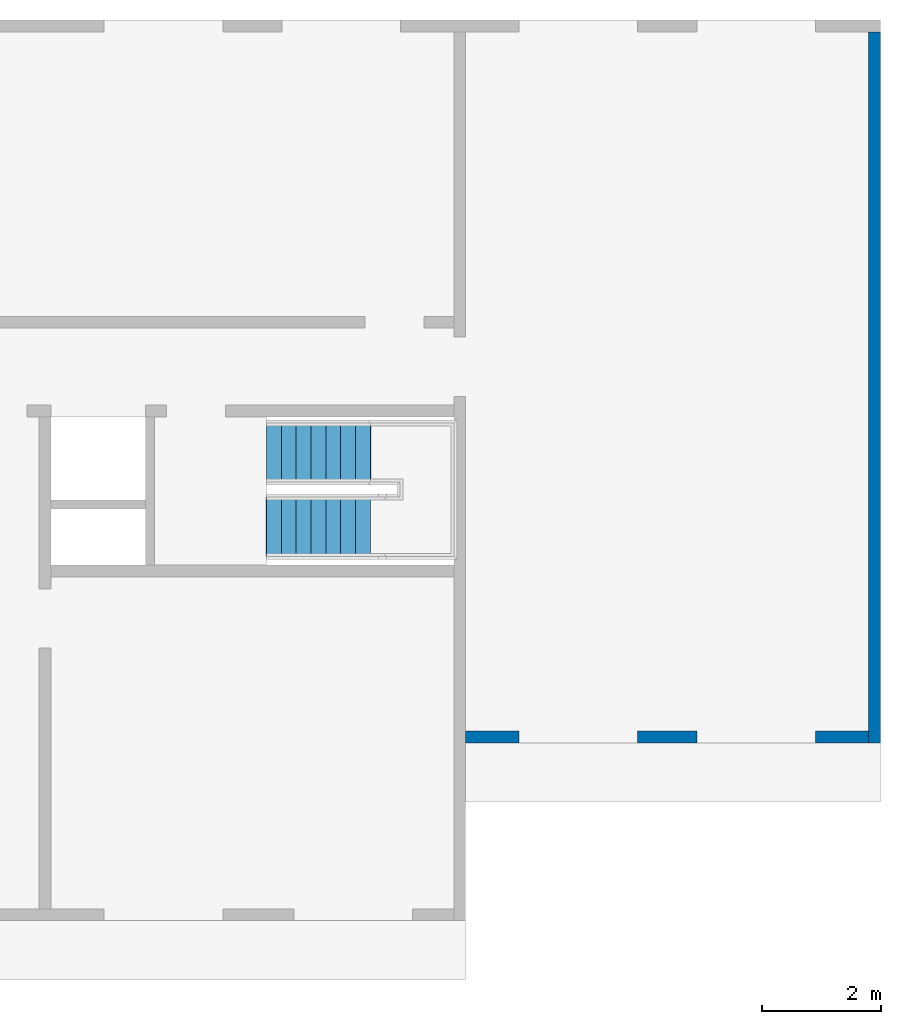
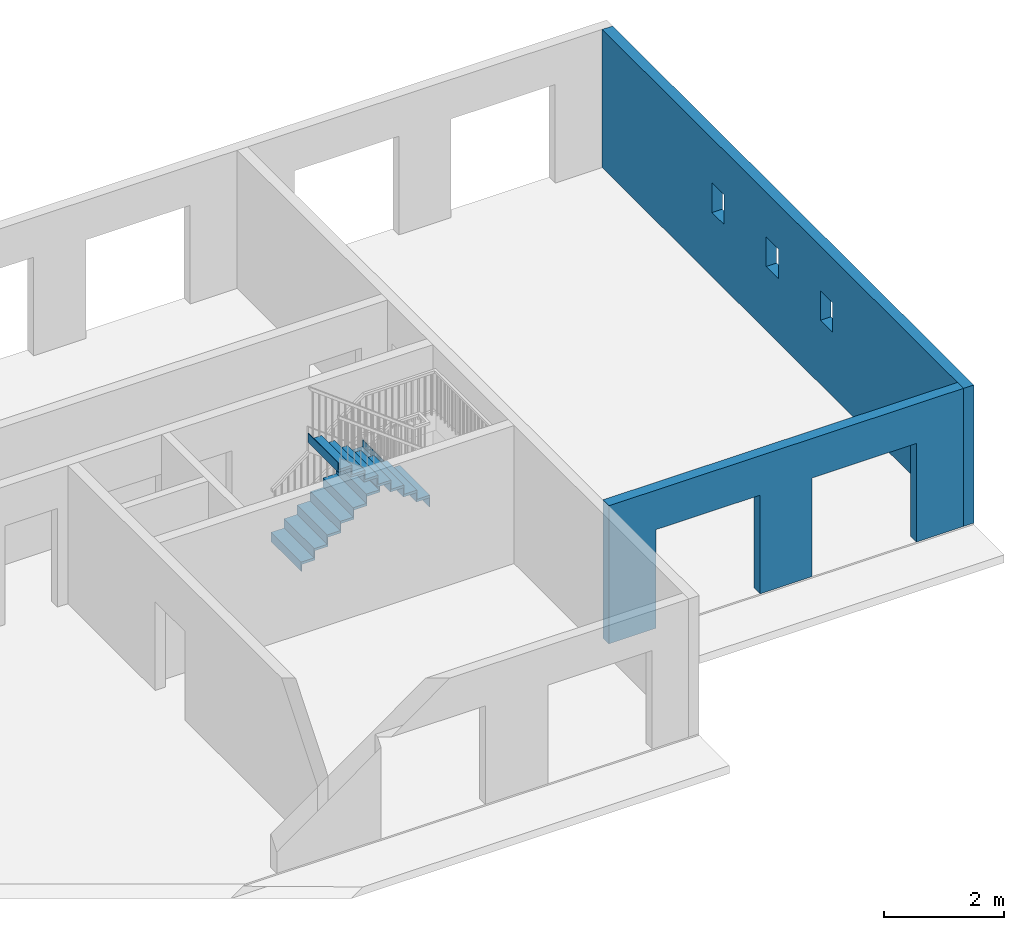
# One storey, part 2 of 3: 2 stair flights, 2 walls, 5 openings, 1 element without a shape of its own.
"""IFC2X3 building model written with IfcOpenShell, lengths in metres."""

from ifc_helpers import new_model, entity, si_unit, converted_unit, derived_unit, direction, frame, frame_2d, origin, origin_2d_with_axis, place, context, subcontext, project, spatial, rectangle, extrude, material, layer, layer_set, layer_usage, type_object, element, aggregate, save


model = new_model("IFC2X3")

# Units and contexts
model_context = context("Model", 3, precision=1e-05, world=origin(), true_north=direction((6.12303176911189e-17, 1.0)))
context_of_model = context(None, 3, precision=1e-05, world=origin(), true_north=direction((6.12303176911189e-17, 1.0)))
body_context = subcontext(model_context, "Body", "Model", "MODEL_VIEW")
ifc_project = project(units=[si_unit("LENGTHUNIT", "METRE"), si_unit("AREAUNIT", "SQUARE_METRE"), si_unit("VOLUMEUNIT", "CUBIC_METRE"), converted_unit("PLANEANGLEUNIT", "DEGREE", entity("IfcRatioMeasure", 0.0174532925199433), si_unit("PLANEANGLEUNIT", "RADIAN"), dimensions=[0, 0, 0, 0, 0, 0, 0]), si_unit("MASSUNIT", "GRAM", prefix="KILO"), derived_unit("MASSDENSITYUNIT", [(si_unit("MASSUNIT", "GRAM", prefix="KILO"), 1), (si_unit("LENGTHUNIT", "METRE"), -3)]), si_unit("TIMEUNIT", "SECOND"), si_unit("FREQUENCYUNIT", "HERTZ"), si_unit("THERMODYNAMICTEMPERATUREUNIT", "DEGREE_CELSIUS"), derived_unit("THERMALTRANSMITTANCEUNIT", [(si_unit("MASSUNIT", "GRAM", prefix="KILO"), 1), (si_unit("THERMODYNAMICTEMPERATUREUNIT", "KELVIN"), -1), (si_unit("TIMEUNIT", "SECOND"), -3)]), derived_unit("VOLUMETRICFLOWRATEUNIT", [(si_unit("LENGTHUNIT", "METRE"), 3), (si_unit("TIMEUNIT", "SECOND"), -1)]), si_unit("ELECTRICCURRENTUNIT", "AMPERE"), si_unit("ELECTRICVOLTAGEUNIT", "VOLT"), si_unit("POWERUNIT", "WATT"), si_unit("FORCEUNIT", "NEWTON"), si_unit("ILLUMINANCEUNIT", "LUX"), si_unit("LUMINOUSFLUXUNIT", "LUMEN"), si_unit("LUMINOUSINTENSITYUNIT", "CANDELA"), derived_unit("USERDEFINED", [(si_unit("MASSUNIT", "GRAM", prefix="KILO"), -1), (si_unit("LENGTHUNIT", "METRE"), -2), (si_unit("TIMEUNIT", "SECOND"), 3), (si_unit("LUMINOUSFLUXUNIT", "LUMEN"), 1)]), derived_unit("LINEARVELOCITYUNIT", [(si_unit("LENGTHUNIT", "METRE"), 1), (si_unit("TIMEUNIT", "SECOND"), -1)]), si_unit("PRESSUREUNIT", "PASCAL"), derived_unit("USERDEFINED", [(si_unit("LENGTHUNIT", "METRE"), -2), (si_unit("MASSUNIT", "GRAM", prefix="KILO"), 1), (si_unit("TIMEUNIT", "SECOND"), -2)])], contexts=[model_context, context_of_model])

# Site, building, storey
site_placement = place(None, origin())
site = spatial("IfcSite", under=ifc_project, at=site_placement, Name="Default", CompositionType="ELEMENT")
building_placement = place(site_placement, origin())
building = spatial("IfcBuilding", under=site, at=building_placement, CompositionType="ELEMENT")
storey_placement = place(building_placement, frame((0.0, 0.0, 6.0)))
storey = spatial("IfcBuildingStorey", under=building, at=storey_placement, Name="R+2", CompositionType="ELEMENT", Elevation=5.99999999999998)

# Wall, openings
ifc_material = material(Name="Béton - Coulé sur place - Béton20")
ifc_layer = layer(ifc_material, 0.2)
ifc_layer_set = layer_set([ifc_layer], Name="Mur de base:Générique - 200 mm")
ifc_layer_usage_1 = layer_usage(ifc_layer_set, "AXIS2", "NEGATIVE", 0.1)
wall_type = type_object("IfcWallType", Name="Mur de base:Générique - 200 mm", PredefinedType="STANDARD", material=ifc_layer_set)
wall_1_placement = place(storey_placement, frame((15.7926639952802, 8.86181014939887, 0.200000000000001), z_axis=(0.0, 0.0, 1.0), x_axis=(0.0, -1.0, 0.0)))
wall_1 = element("IfcWallStandardCase", 1, at=wall_1_placement, inside=storey, type_object=wall_type, material=ifc_layer_usage_1, Name="Mur de base:Générique - 200 mm", ObjectType="Mur de base:Générique - 200 mm:1044", context=body_context, shape_type="SweptSolid", body=[
    extrude(rectangle(XDim=12.0, YDim=0.200000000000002, at=frame_2d((6.0, 0.0), x_axis=(-1.0, 0.0))), origin(), (0.0, 0.0, 1.0), 2.80000000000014),
])
opening_1_placement = place(wall_1_placement, frame((5.45, -0.10000000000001, 1.29999999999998)))
element("IfcOpeningElement", 2, at=opening_1_placement, cuts=wall_1, Name="M_Fenêtre-Ouverture carrée:0400 x 600mm:1", ObjectType="Opening", context=body_context, shape_type="SweptSolid", body=[
    extrude(rectangle(XDim=0.6, YDim=0.4, at=frame_2d((0.3, 0.2), x_axis=(-1.0, 0.0))), frame((0.0, 0.0, 0.0), z_axis=(0.0, 1.0, 0.0), x_axis=(0.0, 0.0, 1.0)), (0.0, 0.0, 1.0), 0.2),
])
opening_2_placement = place(wall_1_placement, frame((3.65, -0.100000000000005, 1.29999999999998)))
element("IfcOpeningElement", 3, at=opening_2_placement, cuts=wall_1, Name="M_Fenêtre-Ouverture carrée:0400 x 600mm:1", ObjectType="Opening", context=body_context, shape_type="SweptSolid", body=[
    extrude(rectangle(XDim=0.6, YDim=0.4, at=frame_2d((0.3, 0.2), x_axis=(-1.0, 0.0))), frame((0.0, 0.0, 0.0), z_axis=(0.0, 1.0, 0.0), x_axis=(0.0, 0.0, 1.0)), (0.0, 0.0, 1.0), 0.2),
])
opening_3_placement = place(wall_1_placement, frame((7.25, -0.100000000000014, 1.29999999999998)))
element("IfcOpeningElement", 4, at=opening_3_placement, cuts=wall_1, Name="M_Fenêtre-Ouverture carrée:0400 x 600mm:1", ObjectType="Opening", context=body_context, shape_type="SweptSolid", body=[
    extrude(rectangle(XDim=0.6, YDim=0.4, at=frame_2d((0.3, 0.2), x_axis=(-1.0, 0.0))), frame((0.0, 0.0, 0.0), z_axis=(0.0, 1.0, 0.0), x_axis=(0.0, 0.0, 1.0)), (0.0, 0.0, 1.0), 0.2),
])

ifc_layer_usage_2 = layer_usage(ifc_layer_set, "AXIS2", "NEGATIVE", 0.1)
wall_2_placement = place(storey_placement, frame((15.6926639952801, -3.03818985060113, 0.200000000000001), z_axis=(0.0, 0.0, 1.0), x_axis=(-1.0, 0.0, 0.0)))
wall_2 = element("IfcWallStandardCase", 5, at=wall_2_placement, inside=storey, type_object=wall_type, material=ifc_layer_usage_2, Name="Mur de base:Générique - 200 mm", ObjectType="Mur de base:Générique - 200 mm:1044", context=body_context, shape_type="SweptSolid", body=[
    extrude(rectangle(XDim=6.8, YDim=0.2, at=frame_2d((3.4, 2.22044604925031e-16), x_axis=(-1.0, 0.0))), origin(), (0.0, 0.0, 1.0), 2.80000000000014),
])
opening_4_placement = place(wall_2_placement, frame((3.9, -0.100000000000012, 0.0)))
element("IfcOpeningElement", 6, at=opening_4_placement, cuts=wall_2, Name="M_Porte-Ouverture:2000 x 2000 mm:1", ObjectType="Opening", context=body_context, shape_type="SweptSolid", body=[
    extrude(rectangle(XDim=2.0, YDim=2.0, at=frame_2d((1.0, 1.0), x_axis=(-1.0, 0.0))), frame((0.0, 0.0, 0.0), z_axis=(0.0, 1.0, 0.0), x_axis=(0.0, 0.0, 1.0)), (0.0, 0.0, 1.0), 0.2),
])
opening_5_placement = place(wall_2_placement, frame((0.899999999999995, -0.100000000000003, 0.0)))
element("IfcOpeningElement", 7, at=opening_5_placement, cuts=wall_2, Name="M_Porte-Ouverture:2000 x 2000 mm:1", ObjectType="Opening", context=body_context, shape_type="SweptSolid", body=[
    extrude(rectangle(XDim=2.0, YDim=2.0, at=frame_2d((1.0, 1.0), x_axis=(-1.0, 0.0))), frame((0.0, 0.0, 0.0), z_axis=(0.0, 1.0, 0.0), x_axis=(0.0, 0.0, 1.0)), (0.0, 0.0, 1.0), 0.2),
])

# Stair, stair flights
stair_placement = place(storey_placement, origin())
stair = element("IfcStair", 8, at=stair_placement, inside=storey, Name="Escalier assemblé:Escalier", ObjectType="Escalier assemblé:Contremarche 190 mm max marche 250\xa0mm", ShapeType="NOTDEFINED")
stair_flight_1_placement = place(stair_placement, origin())
stair_flight_1 = element("IfcStairFlight", 9, at=stair_flight_1_placement, Name="Escalier assemblé:Escalier:468124 Run 1", ObjectType="Escalier assemblé:Contremarche 190 mm max marche 250\xa0mm", NumberOfRiser=8, NumberOfTreads=7, RiserHeight=0.617569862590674, TreadLength=0.820209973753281, context=body_context, shape_type="SweptSolid", body=[
    extrude(rectangle(XDim=1.0, YDim=0.0125000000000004, at=frame_2d((0.0, -5.41233724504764e-16), x_axis=(1.0, 0.0))), frame((5.53891399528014, 1.76181014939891, 0.176470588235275), z_axis=(0.0, 0.0, 1.0), x_axis=(0.0, 1.0, 0.0)), (0.0, 0.0, 1.0), 0.138235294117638),
    extrude(rectangle(XDim=0.249999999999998, YDim=1.0, at=frame_2d((-5.41233724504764e-16, 1.66533453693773e-16), x_axis=(1.0, 0.0))), frame((5.65766399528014, 1.76181014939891, 0.314705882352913), z_axis=(0.0, 0.0, 1.0), x_axis=(-1.0, 0.0, 0.0)), (0.0, 0.0, 1.0), 0.0499999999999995),
    extrude(rectangle(XDim=1.0, YDim=0.0125000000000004, at=frame_2d((0.0, -5.41233724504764e-16), x_axis=(1.0, 0.0))), frame((5.78891399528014, 1.76181014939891, 0.314705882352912), z_axis=(0.0, 0.0, 1.0), x_axis=(0.0, 1.0, 0.0)), (0.0, 0.0, 1.0), 0.188235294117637),
    extrude(rectangle(XDim=0.250000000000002, YDim=1.0, at=frame_2d((0.0, 1.66533453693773e-16), x_axis=(1.0, 0.0))), frame((5.90766399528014, 1.76181014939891, 0.502941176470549), z_axis=(0.0, 0.0, 1.0), x_axis=(-1.0, 0.0, 0.0)), (0.0, 0.0, 1.0), 0.0499999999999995),
    extrude(rectangle(XDim=1.0, YDim=0.0125000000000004, at=frame_2d((0.0, -5.41233724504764e-16), x_axis=(1.0, 0.0))), frame((6.03891399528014, 1.76181014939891, 0.50294117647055), z_axis=(0.0, 0.0, 1.0), x_axis=(0.0, 1.0, 0.0)), (0.0, 0.0, 1.0), 0.188235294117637),
    extrude(rectangle(XDim=0.250000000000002, YDim=1.0, at=frame_2d((0.0, -1.66533453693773e-16), x_axis=(1.0, 0.0))), frame((6.15766399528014, 1.76181014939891, 0.691176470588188), z_axis=(0.0, 0.0, 1.0), x_axis=(-1.0, 0.0, 0.0)), (0.0, 0.0, 1.0), 0.0499999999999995),
    extrude(rectangle(XDim=1.0, YDim=0.0125000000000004, at=frame_2d((0.0, -5.41233724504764e-16), x_axis=(1.0, 0.0))), frame((6.28891399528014, 1.7618101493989, 0.691176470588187), z_axis=(0.0, 0.0, 1.0), x_axis=(0.0, 1.0, 0.0)), (0.0, 0.0, 1.0), 0.188235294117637),
    extrude(rectangle(XDim=0.250000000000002, YDim=1.0, at=frame_2d((0.0, 1.66533453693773e-16), x_axis=(1.0, 0.0))), frame((6.40766399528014, 1.7618101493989, 0.879411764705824), z_axis=(0.0, 0.0, 1.0), x_axis=(-1.0, 0.0, 0.0)), (0.0, 0.0, 1.0), 0.0499999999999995),
    extrude(rectangle(XDim=1.0, YDim=0.0125000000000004, at=frame_2d((0.0, -5.41233724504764e-16), x_axis=(1.0, 0.0))), frame((6.53891399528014, 1.7618101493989, 0.879411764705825), z_axis=(0.0, 0.0, 1.0), x_axis=(0.0, 1.0, 0.0)), (0.0, 0.0, 1.0), 0.188235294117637),
    extrude(rectangle(XDim=0.250000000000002, YDim=1.0, at=frame_2d((0.0, -1.66533453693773e-16), x_axis=(1.0, 0.0))), frame((6.65766399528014, 1.7618101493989, 1.06764705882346), z_axis=(0.0, 0.0, 1.0), x_axis=(-1.0, 0.0, 0.0)), (0.0, 0.0, 1.0), 0.0499999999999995),
    extrude(rectangle(XDim=1.0, YDim=0.0125000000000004, at=frame_2d((0.0, 5.41233724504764e-16), x_axis=(1.0, 0.0))), frame((6.78891399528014, 1.7618101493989, 1.06764705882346), z_axis=(0.0, 0.0, 1.0), x_axis=(0.0, 1.0, 0.0)), (0.0, 0.0, 1.0), 0.188235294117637),
    extrude(rectangle(XDim=0.250000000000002, YDim=1.0, at=frame_2d((0.0, 1.66533453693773e-16), x_axis=(1.0, 0.0))), frame((6.90766399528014, 1.7618101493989, 1.2558823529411), z_axis=(0.0, 0.0, 1.0), x_axis=(-1.0, 0.0, 0.0)), (0.0, 0.0, 1.0), 0.0499999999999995),
    extrude(rectangle(XDim=1.0, YDim=0.0125000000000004, at=frame_2d((0.0, -5.41233724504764e-16), x_axis=(1.0, 0.0))), frame((7.03891399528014, 1.7618101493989, 1.2558823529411), z_axis=(0.0, 0.0, 1.0), x_axis=(0.0, 1.0, 0.0)), (0.0, 0.0, 1.0), 0.188235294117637),
    extrude(rectangle(XDim=0.250000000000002, YDim=1.0, at=frame_2d((-1.08246744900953e-15, -1.66533453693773e-16), x_axis=(1.0, 0.0))), frame((7.15766399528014, 1.7618101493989, 1.44411764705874), z_axis=(0.0, 0.0, 1.0), x_axis=(-1.0, 0.0, 0.0)), (0.0, 0.0, 1.0), 0.0499999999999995),
    extrude(rectangle(XDim=1.0, YDim=0.0125000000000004, at=origin_2d_with_axis()), frame((7.28891399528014, 1.7618101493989, 1.44411764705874), z_axis=(0.0, 0.0, 1.0), x_axis=(0.0, 1.0, 0.0)), (0.0, 0.0, 1.0), 0.188235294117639),
])
stair_flight_2_placement = place(stair_placement, origin())
stair_flight_2 = element("IfcStairFlight", 10, at=stair_flight_2_placement, Name="Escalier assemblé:Escalier:468124 Run 2", ObjectType="Escalier assemblé:Contremarche 190 mm max marche 250\xa0mm", NumberOfRiser=8, NumberOfTreads=7, RiserHeight=0.617569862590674, TreadLength=0.820209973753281, context=body_context, shape_type="SweptSolid", body=[
    extrude(rectangle(XDim=1.0, YDim=0.0125000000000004, at=frame_2d((0.0, -1.08290112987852e-15), x_axis=(1.0, 0.0))), frame((7.27641399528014, 0.511810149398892, 1.63235294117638), z_axis=(0.0, 0.0, 1.0), x_axis=(0.0, -1.0, 0.0)), (0.0, 0.0, 1.0), 0.188235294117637),
    extrude(rectangle(XDim=0.249999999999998, YDim=1.0, at=frame_2d((5.41233724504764e-16, -2.77555756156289e-17), x_axis=(1.0, 0.0))), frame((7.15766399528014, 0.511810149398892, 1.82058823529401)), (0.0, 0.0, 1.0), 0.0499999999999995),
    extrude(rectangle(XDim=1.0, YDim=0.0125000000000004, at=origin_2d_with_axis()), frame((7.02641399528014, 0.511810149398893, 1.82058823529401), z_axis=(0.0, 0.0, 1.0), x_axis=(0.0, -1.0, 0.0)), (0.0, 0.0, 1.0), 0.188235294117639),
    extrude(rectangle(XDim=0.250000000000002, YDim=1.0, at=frame_2d((5.41233724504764e-16, -2.77555756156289e-17), x_axis=(1.0, 0.0))), frame((6.90766399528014, 0.511810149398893, 2.00882352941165)), (0.0, 0.0, 1.0), 0.0499999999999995),
    extrude(rectangle(XDim=1.0, YDim=0.0125000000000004, at=frame_2d((0.0, 1.08290112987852e-15), x_axis=(1.0, 0.0))), frame((6.77641399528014, 0.511810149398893, 2.00882352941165), z_axis=(0.0, 0.0, 1.0), x_axis=(0.0, -1.0, 0.0)), (0.0, 0.0, 1.0), 0.188235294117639),
    extrude(rectangle(XDim=0.250000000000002, YDim=1.0, at=frame_2d((-5.41233724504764e-16, 2.77555756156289e-17), x_axis=(1.0, 0.0))), frame((6.65766399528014, 0.511810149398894, 2.19705882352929)), (0.0, 0.0, 1.0), 0.0499999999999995),
    extrude(rectangle(XDim=1.0, YDim=0.0125000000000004, at=origin_2d_with_axis()), frame((6.52641399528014, 0.511810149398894, 2.19705882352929), z_axis=(0.0, 0.0, 1.0), x_axis=(0.0, -1.0, 0.0)), (0.0, 0.0, 1.0), 0.188235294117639),
    extrude(rectangle(XDim=0.250000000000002, YDim=1.0, at=frame_2d((-5.41233724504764e-16, 2.77555756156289e-17), x_axis=(1.0, 0.0))), frame((6.40766399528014, 0.511810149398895, 2.38529411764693)), (0.0, 0.0, 1.0), 0.0499999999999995),
    extrude(rectangle(XDim=1.0, YDim=0.0125000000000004, at=origin_2d_with_axis()), frame((6.27641399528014, 0.511810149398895, 2.38529411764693), z_axis=(0.0, 0.0, 1.0), x_axis=(0.0, -1.0, 0.0)), (0.0, 0.0, 1.0), 0.188235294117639),
    extrude(rectangle(XDim=0.250000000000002, YDim=1.0, at=frame_2d((-5.41233724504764e-16, 2.77555756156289e-17), x_axis=(1.0, 0.0))), frame((6.15766399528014, 0.511810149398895, 2.57352941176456)), (0.0, 0.0, 1.0), 0.0499999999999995),
    extrude(rectangle(XDim=1.0, YDim=0.0125000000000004, at=origin_2d_with_axis()), frame((6.02641399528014, 0.511810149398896, 2.57352941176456), z_axis=(0.0, 0.0, 1.0), x_axis=(0.0, -1.0, 0.0)), (0.0, 0.0, 1.0), 0.188235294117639),
    extrude(rectangle(XDim=0.250000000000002, YDim=1.0, at=frame_2d((-5.41233724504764e-16, 0.0), x_axis=(1.0, 0.0))), frame((5.90766399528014, 0.511810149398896, 2.7617647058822)), (0.0, 0.0, 1.0), 0.0499999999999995),
    extrude(rectangle(XDim=1.0, YDim=0.0125000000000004, at=origin_2d_with_axis()), frame((5.77641399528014, 0.511810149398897, 2.7617647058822), z_axis=(0.0, 0.0, 1.0), x_axis=(0.0, -1.0, 0.0)), (0.0, 0.0, 1.0), 0.188235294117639),
    extrude(rectangle(XDim=0.250000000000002, YDim=1.0, at=frame_2d((-5.41233724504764e-16, 0.0), x_axis=(1.0, 0.0))), frame((5.65766399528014, 0.511810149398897, 2.94999999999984)), (0.0, 0.0, 1.0), 0.0499999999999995),
    extrude(rectangle(XDim=1.0, YDim=0.0125000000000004, at=frame_2d((0.0, -1.08290112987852e-15), x_axis=(1.0, 0.0))), frame((5.52641399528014, 0.511810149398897, 2.94999999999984), z_axis=(0.0, 0.0, 1.0), x_axis=(0.0, -1.0, 0.0)), (0.0, 0.0, 1.0), 0.188235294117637),
])
aggregate(stair, [stair_flight_1, stair_flight_2])

save(model, "model.ifc")
